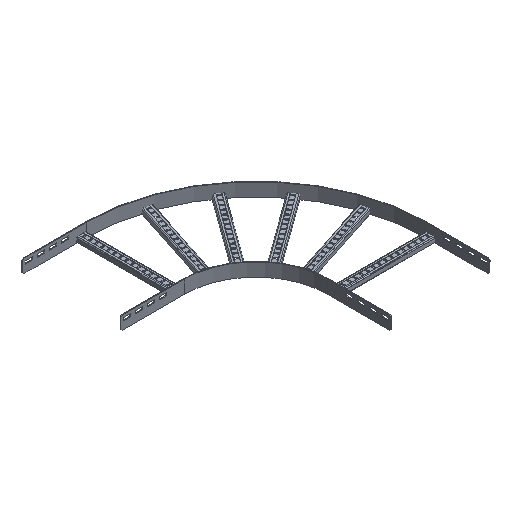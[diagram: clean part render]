
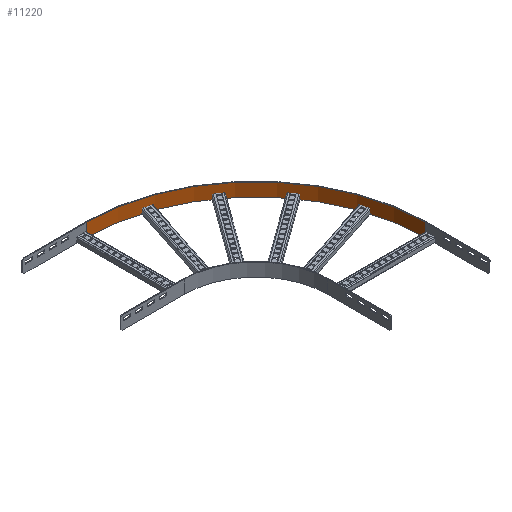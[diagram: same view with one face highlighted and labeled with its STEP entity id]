
A CAD part, isometric view. The second image highlights one B-rep face of the part: STEP entity #11220.
In plain terms, the highlighted cylindrical face has radius 705 mm (diameter 1410 mm), a partial arc.
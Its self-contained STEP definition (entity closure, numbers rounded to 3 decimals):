
#450=CARTESIAN_POINT('',(705.,-708.,-90.));
#460=VERTEX_POINT('',#450);
#490=CARTESIAN_POINT('',(0.,-708.,-90.));
#500=DIRECTION('',(0.,0.,1.));
#510=DIRECTION('',(1.,0.,0.));
#520=AXIS2_PLACEMENT_3D('',#490,#500,#510);
#530=CIRCLE('',#520,705.);
#540=CARTESIAN_POINT('',(0.,-3.,-90.));
#550=VERTEX_POINT('',#540);
#560=EDGE_CURVE('',#460,#550,#530,.T.);
#2880=CARTESIAN_POINT('',(0.,-3.,-145.));
#2890=VERTEX_POINT('',#2880);
#2920=CARTESIAN_POINT('',(0.,-708.,-145.));
#2930=DIRECTION('',(0.,0.,1.));
#2940=DIRECTION('',(1.,0.,0.));
#2950=AXIS2_PLACEMENT_3D('',#2920,#2930,#2940);
#2960=CIRCLE('',#2950,705.);
#2970=CARTESIAN_POINT('',(705.,-708.,-145.));
#2980=VERTEX_POINT('',#2970);
#2990=EDGE_CURVE('',#2980,#2890,#2960,.T.);
#6530=CARTESIAN_POINT('',(0.,-3.,0.));
#6540=DIRECTION('',(0.,0.,-1.));
#6550=VECTOR('',#6540,1.);
#6560=LINE('',#6530,#6550);
#6570=EDGE_CURVE('',#550,#2890,#6560,.T.);
#11060=CARTESIAN_POINT('',(0.,-708.,-90.));
#11070=DIRECTION('',(0.,0.,1.));
#11080=DIRECTION('',(1.,0.,0.));
#11090=AXIS2_PLACEMENT_3D('',#11060,#11070,#11080);
#11100=CYLINDRICAL_SURFACE('',#11090,705.);
#11110=ORIENTED_EDGE('',*,*,#560,.T.);
#11120=CARTESIAN_POINT('',(705.,-708.,0.));
#11130=DIRECTION('',(0.,0.,1.));
#11140=VECTOR('',#11130,1.);
#11150=LINE('',#11120,#11140);
#11160=EDGE_CURVE('',#2980,#460,#11150,.T.);
#11170=ORIENTED_EDGE('',*,*,#11160,.T.);
#11180=ORIENTED_EDGE('',*,*,#2990,.F.);
#11190=ORIENTED_EDGE('',*,*,#6570,.T.);
#11200=EDGE_LOOP('',(#11190,#11180,#11170,#11110));
#11210=FACE_OUTER_BOUND('',#11200,.T.);
#11220=ADVANCED_FACE('',(#11210),#11100,.F.);
